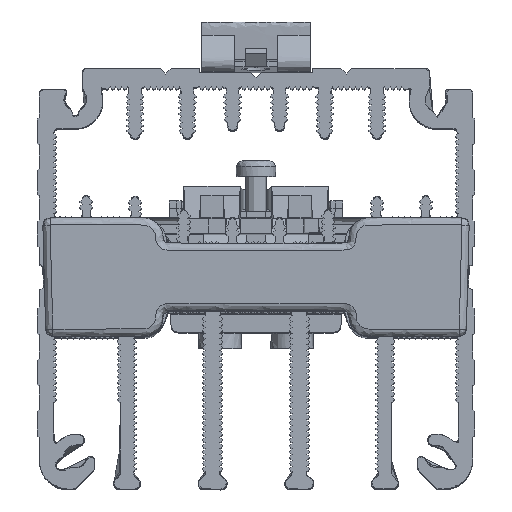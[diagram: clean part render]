
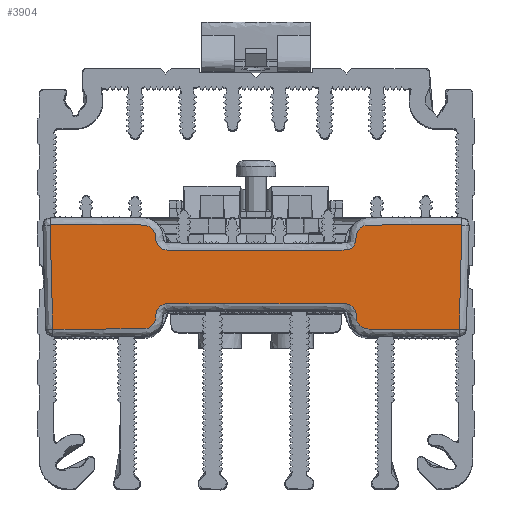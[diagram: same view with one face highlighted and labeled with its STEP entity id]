
A CAD part, top view. The second image highlights one B-rep face of the part: STEP entity #3904.
In plain terms, the highlighted planar face has unit normal (0, 0, 1).
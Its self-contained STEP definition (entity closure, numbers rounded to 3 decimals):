
#1414=(
BOUNDED_CURVE()
B_SPLINE_CURVE(3,(#49139,#49140,#49141,#49142,#49143,#49144,#49145,#49146,
#49147,#49148,#49149,#49150,#49151,#49152,#49153,#49154,#49155,#49156,#49157,
#49158,#49159,#49160,#49161,#49162,#49163,#49164,#49165,#49166,#49167,#49168,
#49169,#49170,#49171,#49172,#49173,#49174,#49175,#49176,#49177,#49178),
 .UNSPECIFIED.,.F.,.F.)
B_SPLINE_CURVE_WITH_KNOTS((4,3,1,1,1,3,3,1,1,1,3,3,1,1,1,3,3,1,1,1,3,4),
(1.027,13.968,14.588,15.259,15.934,
16.639,16.938,17.508,18.116,18.686,
19.294,44.018,44.588,45.196,45.766,
46.374,46.673,47.293,47.964,48.639,
49.343,62.285),.UNSPECIFIED.)
CURVE()
GEOMETRIC_REPRESENTATION_ITEM()
RATIONAL_B_SPLINE_CURVE((1.,1.,1.,1.,1.,1.,1.,1.,1.,1.,1.,1.,1.,1.,1.,1.,
1.,1.,1.,1.,1.,1.,1.,1.,1.,1.,1.,1.,1.,1.,1.,1.,1.,1.,1.,1.,1.,1.,1.,1.))
REPRESENTATION_ITEM('')
);
#1415=(
BOUNDED_CURVE()
B_SPLINE_CURVE(3,(#49179,#49180,#49181,#49182),.UNSPECIFIED.,.F.,.F.)
B_SPLINE_CURVE_WITH_KNOTS((4,4),(0.974,15.377),
 .UNSPECIFIED.)
CURVE()
GEOMETRIC_REPRESENTATION_ITEM()
RATIONAL_B_SPLINE_CURVE((1.,1.,1.,1.))
REPRESENTATION_ITEM('')
);
#1416=(
BOUNDED_CURVE()
B_SPLINE_CURVE(3,(#49183,#49184,#49185,#49186),.UNSPECIFIED.,.F.,.F.)
B_SPLINE_CURVE_WITH_KNOTS((4,4),(1.027,15.43),
 .UNSPECIFIED.)
CURVE()
GEOMETRIC_REPRESENTATION_ITEM()
RATIONAL_B_SPLINE_CURVE((1.,1.,1.,1.))
REPRESENTATION_ITEM('')
);
#1417=(
BOUNDED_CURVE()
B_SPLINE_CURVE(3,(#49187,#49188,#49189,#49190,#49191,#49192,#49193,#49194,
#49195,#49196,#49197,#49198,#49199,#49200,#49201,#49202,#49203,#49204,#49205,
#49206,#49207,#49208,#49209,#49210,#49211,#49212,#49213,#49214,#49215,#49216,
#49217,#49218,#49219,#49220,#49221,#49222,#49223,#49224,#49225,#49226,#49227),
 .UNSPECIFIED.,.F.,.F.)
B_SPLINE_CURVE_WITH_KNOTS((4,3,1,1,1,3,3,1,1,1,1,3,3,1,1,1,3,3,1,1,1,3,
4),(0.974,13.539,14.159,14.83,15.505,
16.209,16.508,17.079,17.695,18.275,
18.564,18.864,43.588,44.159,44.766,
45.337,45.944,46.244,46.863,47.535,
48.209,48.914,61.479),.UNSPECIFIED.)
CURVE()
GEOMETRIC_REPRESENTATION_ITEM()
RATIONAL_B_SPLINE_CURVE((1.,1.,1.,1.,1.,1.,1.,1.,1.,1.,1.,1.,1.,1.,1.,1.,
1.,1.,1.,1.,1.,1.,1.,1.,1.,1.,1.,1.,1.,1.,1.,1.,1.,1.,1.,1.,1.,1.,1.,1.,
1.))
REPRESENTATION_ITEM('')
);
#3904=ADVANCED_FACE('',(#5399),#26456,.T.);
#5399=FACE_OUTER_BOUND('',#6900,.T.);
#6900=EDGE_LOOP('',(#14367,#14368,#14369,#14370));
#14367=ORIENTED_EDGE('',*,*,#19288,.F.);
#14368=ORIENTED_EDGE('',*,*,#19290,.F.);
#14369=ORIENTED_EDGE('',*,*,#19289,.F.);
#14370=ORIENTED_EDGE('',*,*,#19287,.F.);
#19287=EDGE_CURVE('',#25369,#25370,#1414,.T.);
#19288=EDGE_CURVE('',#25371,#25369,#1415,.T.);
#19289=EDGE_CURVE('',#25370,#25372,#1416,.T.);
#19290=EDGE_CURVE('',#25372,#25371,#1417,.T.);
#25369=VERTEX_POINT('',#48714);
#25370=VERTEX_POINT('',#48715);
#25371=VERTEX_POINT('',#48716);
#25372=VERTEX_POINT('',#48717);
#26456=PLANE('',#27322);
#27322=AXIS2_PLACEMENT_3D('',#48134,#28173,$);
#28173=DIRECTION('',(0.,0.,1.));
#48134=CARTESIAN_POINT('',(722.205,232.155,11.25));
#48714=CARTESIAN_POINT('',(723.231,247.553,11.25));
#48715=CARTESIAN_POINT('',(780.239,247.553,11.25));
#48716=CARTESIAN_POINT('',(723.608,233.155,11.25));
#48717=CARTESIAN_POINT('',(779.862,233.155,11.25));
#49139=CARTESIAN_POINT('',(723.231,247.553,11.25));
#49140=CARTESIAN_POINT('',(727.545,247.553,11.25));
#49141=CARTESIAN_POINT('',(731.859,247.553,11.25));
#49142=CARTESIAN_POINT('',(736.173,247.553,11.25));
#49143=CARTESIAN_POINT('',(736.38,247.553,11.25));
#49144=CARTESIAN_POINT('',(736.81,247.474,11.25));
#49145=CARTESIAN_POINT('',(737.375,247.118,11.25));
#49146=CARTESIAN_POINT('',(737.776,246.547,11.25));
#49147=CARTESIAN_POINT('',(737.873,246.088,11.25));
#49148=CARTESIAN_POINT('',(737.873,245.853,11.25));
#49149=CARTESIAN_POINT('',(737.873,245.753,11.25));
#49150=CARTESIAN_POINT('',(737.873,245.654,11.25));
#49151=CARTESIAN_POINT('',(737.873,245.554,11.25));
#49152=CARTESIAN_POINT('',(737.873,245.364,11.25));
#49153=CARTESIAN_POINT('',(737.949,244.971,11.25));
#49154=CARTESIAN_POINT('',(738.276,244.474,11.25));
#49155=CARTESIAN_POINT('',(738.778,244.135,11.25));
#49156=CARTESIAN_POINT('',(739.17,244.054,11.25));
#49157=CARTESIAN_POINT('',(739.373,244.054,11.25));
#49158=CARTESIAN_POINT('',(747.614,244.054,11.25));
#49159=CARTESIAN_POINT('',(755.856,244.054,11.25));
#49160=CARTESIAN_POINT('',(764.097,244.054,11.25));
#49161=CARTESIAN_POINT('',(764.287,244.054,11.25));
#49162=CARTESIAN_POINT('',(764.68,244.129,11.25));
#49163=CARTESIAN_POINT('',(765.176,244.457,11.25));
#49164=CARTESIAN_POINT('',(765.516,244.959,11.25));
#49165=CARTESIAN_POINT('',(765.597,245.351,11.25));
#49166=CARTESIAN_POINT('',(765.597,245.554,11.25));
#49167=CARTESIAN_POINT('',(765.597,245.654,11.25));
#49168=CARTESIAN_POINT('',(765.597,245.753,11.25));
#49169=CARTESIAN_POINT('',(765.597,245.853,11.25));
#49170=CARTESIAN_POINT('',(765.597,246.06,11.25));
#49171=CARTESIAN_POINT('',(765.676,246.49,11.25));
#49172=CARTESIAN_POINT('',(766.032,247.055,11.25));
#49173=CARTESIAN_POINT('',(766.602,247.456,11.25));
#49174=CARTESIAN_POINT('',(767.062,247.553,11.25));
#49175=CARTESIAN_POINT('',(767.297,247.553,11.25));
#49176=CARTESIAN_POINT('',(771.611,247.553,11.25));
#49177=CARTESIAN_POINT('',(775.925,247.553,11.25));
#49178=CARTESIAN_POINT('',(780.239,247.553,11.25));
#49179=CARTESIAN_POINT('',(723.608,233.155,11.25));
#49180=CARTESIAN_POINT('',(723.483,237.954,11.25));
#49181=CARTESIAN_POINT('',(723.357,242.754,11.25));
#49182=CARTESIAN_POINT('',(723.231,247.553,11.25));
#49183=CARTESIAN_POINT('',(780.239,247.553,11.25));
#49184=CARTESIAN_POINT('',(780.113,242.754,11.25));
#49185=CARTESIAN_POINT('',(779.987,237.954,11.25));
#49186=CARTESIAN_POINT('',(779.862,233.155,11.25));
#49187=CARTESIAN_POINT('',(779.862,233.155,11.25));
#49188=CARTESIAN_POINT('',(775.673,233.155,11.25));
#49189=CARTESIAN_POINT('',(771.485,233.155,11.25));
#49190=CARTESIAN_POINT('',(767.297,233.155,11.25));
#49191=CARTESIAN_POINT('',(767.09,233.155,11.25));
#49192=CARTESIAN_POINT('',(766.66,233.234,11.25));
#49193=CARTESIAN_POINT('',(766.094,233.59,11.25));
#49194=CARTESIAN_POINT('',(765.694,234.16,11.25));
#49195=CARTESIAN_POINT('',(765.597,234.62,11.25));
#49196=CARTESIAN_POINT('',(765.597,234.855,11.25));
#49197=CARTESIAN_POINT('',(765.597,234.954,11.25));
#49198=CARTESIAN_POINT('',(765.597,235.054,11.25));
#49199=CARTESIAN_POINT('',(765.597,235.154,11.25));
#49200=CARTESIAN_POINT('',(765.597,235.344,11.25));
#49201=CARTESIAN_POINT('',(765.521,235.74,11.25));
#49202=CARTESIAN_POINT('',(765.188,236.241,11.25));
#49203=CARTESIAN_POINT('',(764.768,236.52,11.25));
#49204=CARTESIAN_POINT('',(764.393,236.634,11.25));
#49205=CARTESIAN_POINT('',(764.197,236.654,11.25));
#49206=CARTESIAN_POINT('',(764.097,236.654,11.25));
#49207=CARTESIAN_POINT('',(755.856,236.654,11.25));
#49208=CARTESIAN_POINT('',(747.614,236.654,11.25));
#49209=CARTESIAN_POINT('',(739.373,236.654,11.25));
#49210=CARTESIAN_POINT('',(739.183,236.654,11.25));
#49211=CARTESIAN_POINT('',(738.79,236.578,11.25));
#49212=CARTESIAN_POINT('',(738.294,236.251,11.25));
#49213=CARTESIAN_POINT('',(737.954,235.749,11.25));
#49214=CARTESIAN_POINT('',(737.873,235.356,11.25));
#49215=CARTESIAN_POINT('',(737.873,235.154,11.25));
#49216=CARTESIAN_POINT('',(737.873,235.054,11.25));
#49217=CARTESIAN_POINT('',(737.873,234.954,11.25));
#49218=CARTESIAN_POINT('',(737.873,234.855,11.25));
#49219=CARTESIAN_POINT('',(737.873,234.648,11.25));
#49220=CARTESIAN_POINT('',(737.794,234.218,11.25));
#49221=CARTESIAN_POINT('',(737.438,233.652,11.25));
#49222=CARTESIAN_POINT('',(736.867,233.251,11.25));
#49223=CARTESIAN_POINT('',(736.408,233.155,11.25));
#49224=CARTESIAN_POINT('',(736.173,233.155,11.25));
#49225=CARTESIAN_POINT('',(731.985,233.155,11.25));
#49226=CARTESIAN_POINT('',(727.797,233.155,11.25));
#49227=CARTESIAN_POINT('',(723.608,233.155,11.25));
